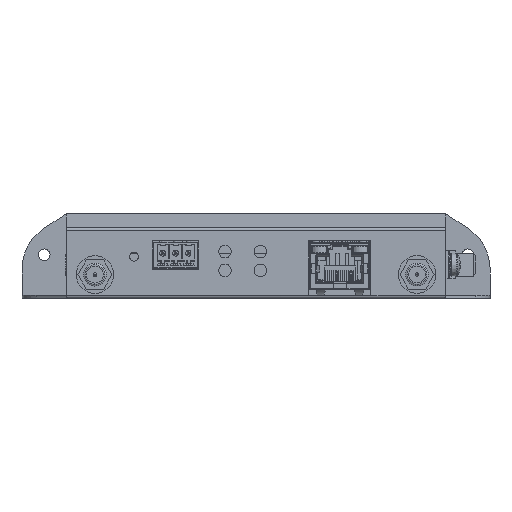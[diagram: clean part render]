
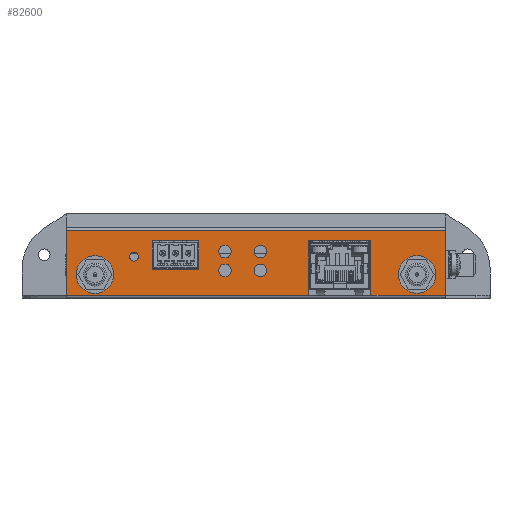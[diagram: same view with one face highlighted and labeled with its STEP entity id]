
A CAD part, front view. The second image highlights one B-rep face of the part: STEP entity #82600.
In plain terms, the highlighted planar face has unit normal (0, -1, 0).
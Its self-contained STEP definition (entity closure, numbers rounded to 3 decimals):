
#1157=FACE_BOUND('',#10568,.T.);
#1158=FACE_BOUND('',#10569,.T.);
#1159=FACE_BOUND('',#10570,.T.);
#1160=FACE_BOUND('',#10571,.T.);
#1161=FACE_BOUND('',#10572,.T.);
#1162=FACE_BOUND('',#10573,.T.);
#1163=FACE_BOUND('',#10574,.T.);
#1164=FACE_BOUND('',#10575,.T.);
#2029=CIRCLE('',#89931,1.2);
#2032=CIRCLE('',#89939,3.3);
#2034=CIRCLE('',#89943,1.7);
#2036=CIRCLE('',#89946,1.7);
#2038=CIRCLE('',#89949,1.7);
#2040=CIRCLE('',#89952,1.7);
#2042=CIRCLE('',#89959,3.3);
#7082=FACE_OUTER_BOUND('',#10567,.T.);
#10567=EDGE_LOOP('',(#69728,#69729,#69730,#69731,#69732,#69733,#69734,#69735));
#10568=EDGE_LOOP('',(#69736));
#10569=EDGE_LOOP('',(#69737,#69738));
#10570=EDGE_LOOP('',(#69739,#69740,#69741,#69742));
#10571=EDGE_LOOP('',(#69743));
#10572=EDGE_LOOP('',(#69744));
#10573=EDGE_LOOP('',(#69745));
#10574=EDGE_LOOP('',(#69746));
#10575=EDGE_LOOP('',(#69747,#69748));
#17118=LINE('',#144037,#28247);
#17120=LINE('',#144062,#28249);
#17124=LINE('',#144070,#28253);
#17127=LINE('',#144076,#28256);
#17130=LINE('',#144081,#28259);
#17134=LINE('',#144093,#28263);
#17138=LINE('',#144102,#28267);
#17142=LINE('',#144111,#28271);
#17145=LINE('',#144115,#28274);
#17146=LINE('',#144118,#28275);
#17147=LINE('',#144120,#28276);
#17148=LINE('',#144122,#28277);
#17149=LINE('',#144124,#28278);
#17150=LINE('',#144125,#28279);
#28247=VECTOR('',#102213,3.795);
#28249=VECTOR('',#102241,7.8);
#28253=VECTOR('',#102247,12.7);
#28256=VECTOR('',#102252,7.8);
#28259=VECTOR('',#102257,12.7);
#28263=VECTOR('',#102269,3.795);
#28267=VECTOR('',#102275,14.823);
#28271=VECTOR('',#102281,14.823);
#28274=VECTOR('',#102286,16.9);
#28275=VECTOR('',#102289,20.312);
#28276=VECTOR('',#102290,17.658);
#28277=VECTOR('',#102291,103.);
#28278=VECTOR('',#102292,17.658);
#28279=VECTOR('',#102293,65.788);
#39290=VERTEX_POINT('',#143998);
#39300=VERTEX_POINT('',#144028);
#39301=VERTEX_POINT('',#144029);
#39304=VERTEX_POINT('',#144040);
#39306=VERTEX_POINT('',#144045);
#39308=VERTEX_POINT('',#144050);
#39310=VERTEX_POINT('',#144055);
#39312=VERTEX_POINT('',#144060);
#39313=VERTEX_POINT('',#144061);
#39316=VERTEX_POINT('',#144069);
#39318=VERTEX_POINT('',#144075);
#39320=VERTEX_POINT('',#144084);
#39321=VERTEX_POINT('',#144085);
#39326=VERTEX_POINT('',#144099);
#39327=VERTEX_POINT('',#144101);
#39330=VERTEX_POINT('',#144108);
#39331=VERTEX_POINT('',#144110);
#39332=VERTEX_POINT('',#144117);
#39333=VERTEX_POINT('',#144119);
#39334=VERTEX_POINT('',#144121);
#39335=VERTEX_POINT('',#144123);
#52596=EDGE_CURVE('',#39290,#39290,#2029,.T.);
#52610=EDGE_CURVE('',#39300,#39301,#2032,.T.);
#52614=EDGE_CURVE('',#39301,#39300,#17118,.T.);
#52616=EDGE_CURVE('',#39304,#39304,#2034,.T.);
#52618=EDGE_CURVE('',#39306,#39306,#2036,.T.);
#52620=EDGE_CURVE('',#39308,#39308,#2038,.T.);
#52622=EDGE_CURVE('',#39310,#39310,#2040,.T.);
#52624=EDGE_CURVE('',#39312,#39313,#17120,.T.);
#52628=EDGE_CURVE('',#39313,#39316,#17124,.T.);
#52631=EDGE_CURVE('',#39316,#39318,#17127,.T.);
#52634=EDGE_CURVE('',#39318,#39312,#17130,.T.);
#52636=EDGE_CURVE('',#39320,#39321,#2042,.T.);
#52640=EDGE_CURVE('',#39321,#39320,#17134,.T.);
#52644=EDGE_CURVE('',#39327,#39326,#17138,.T.);
#52648=EDGE_CURVE('',#39331,#39330,#17142,.T.);
#52651=EDGE_CURVE('',#39326,#39331,#17145,.T.);
#52652=EDGE_CURVE('',#39332,#39330,#17146,.T.);
#52653=EDGE_CURVE('',#39333,#39332,#17147,.T.);
#52654=EDGE_CURVE('',#39334,#39333,#17148,.T.);
#52655=EDGE_CURVE('',#39335,#39334,#17149,.T.);
#52656=EDGE_CURVE('',#39327,#39335,#17150,.T.);
#69728=ORIENTED_EDGE('',*,*,#52644,.T.);
#69729=ORIENTED_EDGE('',*,*,#52651,.T.);
#69730=ORIENTED_EDGE('',*,*,#52648,.T.);
#69731=ORIENTED_EDGE('',*,*,#52652,.F.);
#69732=ORIENTED_EDGE('',*,*,#52653,.F.);
#69733=ORIENTED_EDGE('',*,*,#52654,.F.);
#69734=ORIENTED_EDGE('',*,*,#52655,.F.);
#69735=ORIENTED_EDGE('',*,*,#52656,.F.);
#69736=ORIENTED_EDGE('',*,*,#52596,.T.);
#69737=ORIENTED_EDGE('',*,*,#52640,.T.);
#69738=ORIENTED_EDGE('',*,*,#52636,.T.);
#69739=ORIENTED_EDGE('',*,*,#52631,.T.);
#69740=ORIENTED_EDGE('',*,*,#52634,.T.);
#69741=ORIENTED_EDGE('',*,*,#52624,.T.);
#69742=ORIENTED_EDGE('',*,*,#52628,.T.);
#69743=ORIENTED_EDGE('',*,*,#52622,.T.);
#69744=ORIENTED_EDGE('',*,*,#52620,.T.);
#69745=ORIENTED_EDGE('',*,*,#52618,.T.);
#69746=ORIENTED_EDGE('',*,*,#52616,.T.);
#69747=ORIENTED_EDGE('',*,*,#52614,.T.);
#69748=ORIENTED_EDGE('',*,*,#52610,.T.);
#79684=PLANE('',#89965);
#82600=ADVANCED_FACE('',(#7082,#1157,#1158,#1159,#1160,#1161,#1162,#1163,
#1164),#79684,.F.);
#89931=AXIS2_PLACEMENT_3D('',#144000,#102178,#102179);
#89939=AXIS2_PLACEMENT_3D('',#144030,#102205,#102206);
#89943=AXIS2_PLACEMENT_3D('',#144041,#102217,#102218);
#89946=AXIS2_PLACEMENT_3D('',#144046,#102223,#102224);
#89949=AXIS2_PLACEMENT_3D('',#144051,#102229,#102230);
#89952=AXIS2_PLACEMENT_3D('',#144056,#102235,#102236);
#89959=AXIS2_PLACEMENT_3D('',#144086,#102261,#102262);
#89965=AXIS2_PLACEMENT_3D('',#144116,#102287,#102288);
#102178=DIRECTION('center_axis',(0.,1.,0.));
#102179=DIRECTION('ref_axis',(0.,0.,
-1.));
#102205=DIRECTION('center_axis',(0.,1.,0.));
#102206=DIRECTION('ref_axis',(0.818,0.,0.575));
#102213=DIRECTION('',(0.,0.,-1.));
#102217=DIRECTION('center_axis',(0.,1.,0.));
#102218=DIRECTION('ref_axis',(0.,0.,
-1.));
#102223=DIRECTION('center_axis',(0.,1.,0.));
#102224=DIRECTION('ref_axis',(0.,0.,
1.));
#102229=DIRECTION('center_axis',(0.,1.,0.));
#102230=DIRECTION('ref_axis',(0.,0.,
-1.));
#102235=DIRECTION('center_axis',(0.,1.,0.));
#102236=DIRECTION('ref_axis',(0.,0.,
1.));
#102241=DIRECTION('',(0.,0.,1.));
#102247=DIRECTION('',(1.,0.,0.));
#102252=DIRECTION('',(0.,0.,-1.));
#102257=DIRECTION('',(-1.,0.,0.));
#102261=DIRECTION('center_axis',(0.,1.,0.));
#102262=DIRECTION('ref_axis',(0.818,0.,0.575));
#102269=DIRECTION('',(0.,0.,-1.));
#102275=DIRECTION('',(0.,0.,1.));
#102281=DIRECTION('',(0.,0.,-1.));
#102286=DIRECTION('',(1.,0.,0.));
#102287=DIRECTION('center_axis',(0.,1.,0.));
#102288=DIRECTION('ref_axis',(1.,0.,0.));
#102289=DIRECTION('',(-1.,0.,0.));
#102290=DIRECTION('',(0.,0.,-1.));
#102291=DIRECTION('',(1.,0.,0.));
#102292=DIRECTION('',(0.,0.,1.));
#102293=DIRECTION('',(-1.,0.,0.));
#143998=CARTESIAN_POINT('',(211.992,191.993,38.844));
#144000=CARTESIAN_POINT('Origin',(211.992,191.993,37.644));
#144028=CARTESIAN_POINT('',(291.475,191.993,30.937));
#144029=CARTESIAN_POINT('',(291.475,191.993,34.732));
#144030=CARTESIAN_POINT('Origin',(288.775,191.993,32.834));
#144037=CARTESIAN_POINT('',(291.475,191.993,40.136));
#144040=CARTESIAN_POINT('',(236.645,191.993,35.628));
#144041=CARTESIAN_POINT('Origin',(236.645,191.993,33.928));
#144045=CARTESIAN_POINT('',(246.251,191.993,37.308));
#144046=CARTESIAN_POINT('Origin',(246.251,191.993,39.008));
#144050=CARTESIAN_POINT('',(246.251,191.993,35.628));
#144051=CARTESIAN_POINT('Origin',(246.251,191.993,33.928));
#144055=CARTESIAN_POINT('',(236.645,191.993,37.308));
#144056=CARTESIAN_POINT('Origin',(236.645,191.993,39.008));
#144060=CARTESIAN_POINT('',(216.885,191.993,34.157));
#144061=CARTESIAN_POINT('',(216.885,191.993,41.957));
#144062=CARTESIAN_POINT('',(216.885,191.993,45.646));
#144069=CARTESIAN_POINT('',(229.585,191.993,41.957));
#144070=CARTESIAN_POINT('',(220.926,191.993,41.957));
#144075=CARTESIAN_POINT('',(229.585,191.993,34.157));
#144076=CARTESIAN_POINT('',(229.585,191.993,41.746));
#144081=CARTESIAN_POINT('',(214.576,191.993,34.157));
#144084=CARTESIAN_POINT('',(204.061,191.993,30.937));
#144085=CARTESIAN_POINT('',(204.061,191.993,34.732));
#144086=CARTESIAN_POINT('Origin',(201.361,191.993,32.834));
#144093=CARTESIAN_POINT('',(204.061,191.993,40.136));
#144099=CARTESIAN_POINT('',(259.355,191.993,41.957));
#144101=CARTESIAN_POINT('',(259.355,191.993,27.134));
#144102=CARTESIAN_POINT('',(259.355,191.993,45.646));
#144108=CARTESIAN_POINT('',(276.255,191.993,27.134));
#144110=CARTESIAN_POINT('',(276.255,191.993,41.957));
#144111=CARTESIAN_POINT('',(276.255,191.993,38.234));
#144115=CARTESIAN_POINT('',(244.261,191.993,41.957));
#144116=CARTESIAN_POINT('Origin',(212.267,191.993,49.334));
#144117=CARTESIAN_POINT('',(296.567,191.993,27.134));
#144118=CARTESIAN_POINT('',(254.067,191.993,27.134));
#144119=CARTESIAN_POINT('',(296.567,191.993,44.793));
#144120=CARTESIAN_POINT('',(296.567,191.993,44.793));
#144121=CARTESIAN_POINT('',(193.567,191.993,44.793));
#144122=CARTESIAN_POINT('',(203.267,191.993,44.793));
#144123=CARTESIAN_POINT('',(193.567,191.993,27.134));
#144124=CARTESIAN_POINT('',(193.567,191.993,27.334));
#144125=CARTESIAN_POINT('',(254.067,191.993,27.134));
